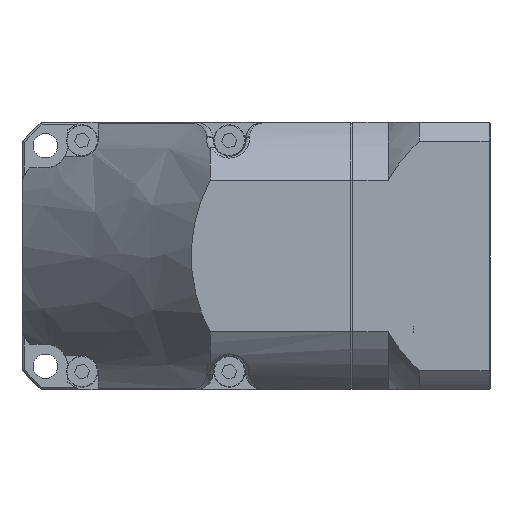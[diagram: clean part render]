
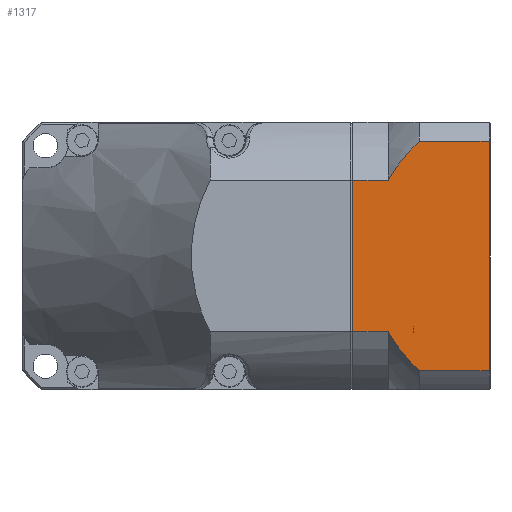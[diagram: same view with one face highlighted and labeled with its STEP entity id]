
A CAD part, front view. The second image highlights one B-rep face of the part: STEP entity #1317.
In plain terms, the highlighted planar face has unit normal (0, -1, 0) as drawn and (1, 0, 0) by its records, which use the part's own axes.
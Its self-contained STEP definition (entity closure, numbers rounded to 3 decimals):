
#333 = CARTESIAN_POINT ( 'NONE',  ( 30., -17.2, -17.037 ) ) ;
#412 = DIRECTION ( 'NONE',  ( 0., 0., 1. ) ) ;
#648 = CARTESIAN_POINT ( 'NONE',  ( 30., -32.128, 25.695 ) ) ;
#728 = VERTEX_POINT ( 'NONE', #11689 ) ;
#734 = FACE_OUTER_BOUND ( 'NONE', #10481, .T. ) ;
#813 = LINE ( 'NONE', #13785, #6921 ) ;
#944 = CARTESIAN_POINT ( 'NONE',  ( 30., -55.366, 0. ) ) ;
#1317 = ADVANCED_FACE ( 'NONE', ( #734 ), #9075, .T. ) ;
#1691 = EDGE_CURVE ( 'NONE', #10994, #5838, #3060, .T. ) ;
#1893 = CARTESIAN_POINT ( 'NONE',  ( 30., 0., 17.037 ) ) ;
#2173 = CIRCLE ( 'NONE', #3940, 34.644 ) ;
#2272 = ORIENTED_EDGE ( 'NONE', *, *, #6576, .T. ) ;
#2543 = CARTESIAN_POINT ( 'NONE',  ( 30., -47.8, 25.695 ) ) ;
#2785 = VECTOR ( 'NONE', #14690, 1000. ) ;
#3060 = LINE ( 'NONE', #10509, #5745 ) ;
#3318 = CARTESIAN_POINT ( 'NONE',  ( 30., -25.2, -17.037 ) ) ;
#3401 = ORIENTED_EDGE ( 'NONE', *, *, #9135, .F. ) ;
#3511 = ORIENTED_EDGE ( 'NONE', *, *, #1691, .T. ) ;
#3597 = DIRECTION ( 'NONE',  ( 0., -1., 0. ) ) ;
#3625 = CARTESIAN_POINT ( 'NONE',  ( 30., -32.128, -25.695 ) ) ;
#3821 = CARTESIAN_POINT ( 'NONE',  ( 30., -17.2, -30. ) ) ;
#3870 = CARTESIAN_POINT ( 'NONE',  ( 30., 0., -17.037 ) ) ;
#3900 = ORIENTED_EDGE ( 'NONE', *, *, #4151, .F. ) ;
#3940 = AXIS2_PLACEMENT_3D ( 'NONE', #4992, #13129, #6173 ) ;
#4074 = EDGE_CURVE ( 'NONE', #10994, #6100, #8697, .T. ) ;
#4151 = EDGE_CURVE ( 'NONE', #6100, #728, #8325, .T. ) ;
#4877 = VECTOR ( 'NONE', #8795, 1000. ) ;
#4992 = CARTESIAN_POINT ( 'NONE',  ( 30., -55.366, 0. ) ) ;
#5239 = DIRECTION ( 'NONE',  ( -1., 0., 0. ) ) ;
#5659 = VERTEX_POINT ( 'NONE', #7978 ) ;
#5745 = VECTOR ( 'NONE', #3597, 1000. ) ;
#5838 = VERTEX_POINT ( 'NONE', #2543 ) ;
#6100 = VERTEX_POINT ( 'NONE', #6505 ) ;
#6173 = DIRECTION ( 'NONE',  ( 0., 0., -1. ) ) ;
#6505 = CARTESIAN_POINT ( 'NONE',  ( 30., -25.2, 17.037 ) ) ;
#6576 = EDGE_CURVE ( 'NONE', #9679, #728, #10545, .T. ) ;
#6818 = ORIENTED_EDGE ( 'NONE', *, *, #13611, .F. ) ;
#6838 = DIRECTION ( 'NONE',  ( 0., -1., 0. ) ) ;
#6921 = VECTOR ( 'NONE', #6838, 1000. ) ;
#7492 = VECTOR ( 'NONE', #412, 1000. ) ;
#7978 = CARTESIAN_POINT ( 'NONE',  ( 30., -47.8, -25.695 ) ) ;
#8325 = LINE ( 'NONE', #1893, #4877 ) ;
#8697 = CIRCLE ( 'NONE', #10128, 34.644 ) ;
#8795 = DIRECTION ( 'NONE',  ( 0., 1., 0. ) ) ;
#8856 = VERTEX_POINT ( 'NONE', #3318 ) ;
#9028 = DIRECTION ( 'NONE',  ( 1., 0., 0. ) ) ;
#9075 = PLANE ( 'NONE',  #9514 ) ;
#9135 = EDGE_CURVE ( 'NONE', #9679, #8856, #13742, .T. ) ;
#9480 = ORIENTED_EDGE ( 'NONE', *, *, #11968, .F. ) ;
#9514 = AXIS2_PLACEMENT_3D ( 'NONE', #14876, #9028, #10226 ) ;
#9679 = VERTEX_POINT ( 'NONE', #333 ) ;
#10055 = CARTESIAN_POINT ( 'NONE',  ( 30., -47.8, -30. ) ) ;
#10128 = AXIS2_PLACEMENT_3D ( 'NONE', #944, #5239, #13356 ) ;
#10226 = DIRECTION ( 'NONE',  ( 0., 0., -1. ) ) ;
#10290 = VECTOR ( 'NONE', #14310, 1000. ) ;
#10291 = VERTEX_POINT ( 'NONE', #3625 ) ;
#10481 = EDGE_LOOP ( 'NONE', ( #3401, #2272, #3900, #13321, #3511, #12624, #6818, #9480 ) ) ;
#10509 = CARTESIAN_POINT ( 'NONE',  ( 30., 0., 25.695 ) ) ;
#10545 = LINE ( 'NONE', #3821, #7492 ) ;
#10994 = VERTEX_POINT ( 'NONE', #648 ) ;
#11594 = LINE ( 'NONE', #10055, #2785 ) ;
#11689 = CARTESIAN_POINT ( 'NONE',  ( 30., -17.2, 17.037 ) ) ;
#11968 = EDGE_CURVE ( 'NONE', #8856, #10291, #2173, .T. ) ;
#12624 = ORIENTED_EDGE ( 'NONE', *, *, #14282, .T. ) ;
#13129 = DIRECTION ( 'NONE',  ( -1., 0., 0. ) ) ;
#13321 = ORIENTED_EDGE ( 'NONE', *, *, #4074, .F. ) ;
#13356 = DIRECTION ( 'NONE',  ( 0., 0., -1. ) ) ;
#13611 = EDGE_CURVE ( 'NONE', #10291, #5659, #813, .T. ) ;
#13742 = LINE ( 'NONE', #3870, #10290 ) ;
#13785 = CARTESIAN_POINT ( 'NONE',  ( 30., 0., -25.695 ) ) ;
#14282 = EDGE_CURVE ( 'NONE', #5838, #5659, #11594, .T. ) ;
#14310 = DIRECTION ( 'NONE',  ( 0., -1., 0. ) ) ;
#14690 = DIRECTION ( 'NONE',  ( 0., 0., -1. ) ) ;
#14876 = CARTESIAN_POINT ( 'NONE',  ( 30., 15., -30. ) ) ;
